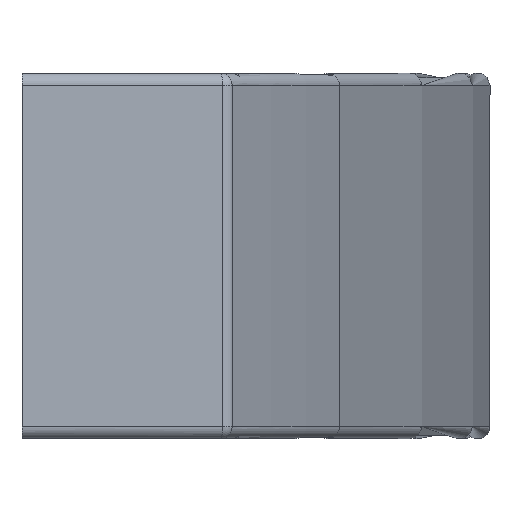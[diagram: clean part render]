
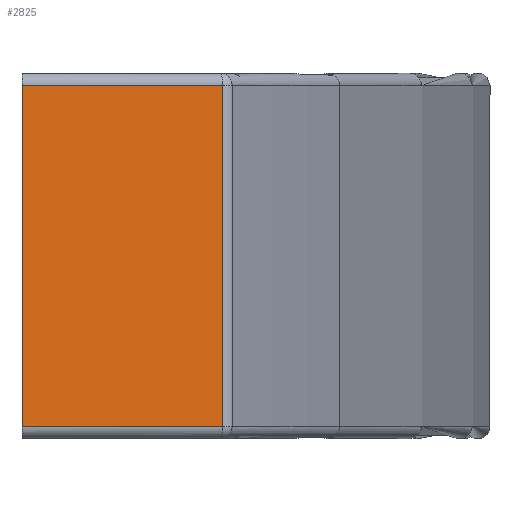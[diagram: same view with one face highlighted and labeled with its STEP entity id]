
A CAD part, front view. The second image highlights one B-rep face of the part: STEP entity #2825.
In plain terms, the highlighted planar face has unit normal (0.104, -0.995, 0).
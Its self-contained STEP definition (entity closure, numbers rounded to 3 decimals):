
#122=CARTESIAN_POINT('',(0.,-186.5,14.));
#132=CARTESIAN_POINT('',(0.,-186.5,-14.));
#895=DIRECTION('',(0.995,0.105,0.));
#896=VECTOR('',#895,16.531);
#897=CARTESIAN_POINT('',(0.,-186.5,14.));
#898=LINE('',#897,#896);
#899=DIRECTION('',(0.,0.,-1.));
#900=VECTOR('',#899,28.);
#901=CARTESIAN_POINT('',(16.441,-184.772,14.));
#902=LINE('',#901,#900);
#903=DIRECTION('',(-0.995,-0.105,0.));
#904=VECTOR('',#903,16.531);
#905=CARTESIAN_POINT('',(16.441,-184.772,-14.));
#906=LINE('',#905,#904);
#907=DIRECTION('',(0.,0.,1.));
#908=VECTOR('',#907,28.);
#909=CARTESIAN_POINT('',(0.,-186.5,-14.));
#910=LINE('',#909,#908);
#1693=VERTEX_POINT('',#122);
#1697=CARTESIAN_POINT('',(16.441,-184.772,14.));
#1698=VERTEX_POINT('',#1697);
#1700=VERTEX_POINT('',#132);
#1701=CARTESIAN_POINT('',(16.441,-184.772,-14.));
#1702=VERTEX_POINT('',#1701);
#2814=CARTESIAN_POINT('',(0.,-186.5,-15.));
#2815=DIRECTION('',(0.105,-0.995,0.));
#2816=DIRECTION('',(0.995,0.105,0.));
#2817=AXIS2_PLACEMENT_3D('',#2814,#2815,#2816);
#2818=PLANE('',#2817);
#2819=ORIENTED_EDGE('',*,*,#2725,.T.);
#2820=ORIENTED_EDGE('',*,*,#2808,.T.);
#2821=ORIENTED_EDGE('',*,*,#1874,.T.);
#2822=ORIENTED_EDGE('',*,*,#1889,.T.);
#2823=EDGE_LOOP('',(#2819,#2820,#2821,#2822));
#2824=FACE_OUTER_BOUND('',#2823,.F.);
#2825=ADVANCED_FACE('',(#2824),#2818,.T.);
#1874=EDGE_CURVE('',#1702,#1700,#906,.T.);
#1889=EDGE_CURVE('',#1700,#1693,#910,.T.);
#2725=EDGE_CURVE('',#1693,#1698,#898,.T.);
#2808=EDGE_CURVE('',#1698,#1702,#902,.T.);
